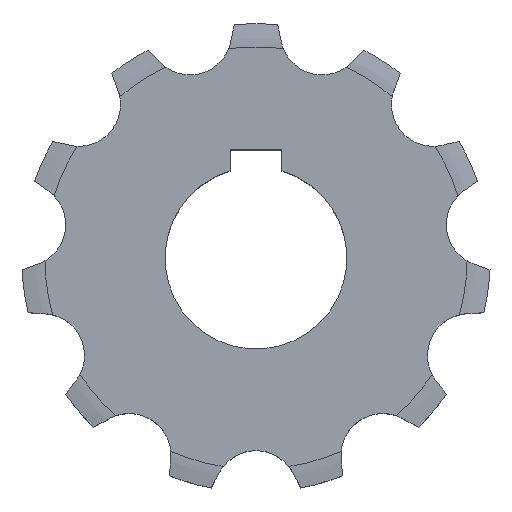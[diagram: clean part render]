
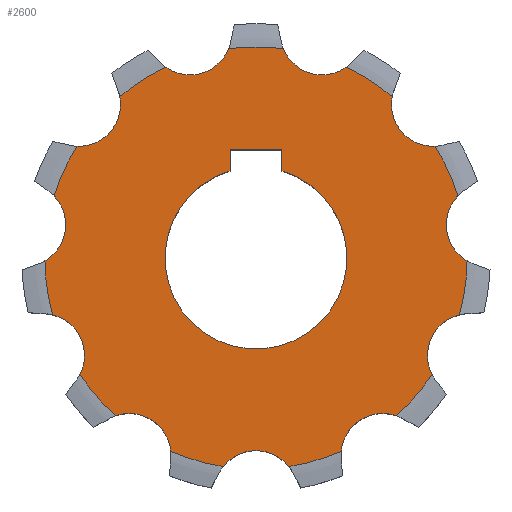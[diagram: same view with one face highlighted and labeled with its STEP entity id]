
A CAD part, top view. The second image highlights one B-rep face of the part: STEP entity #2600.
In plain terms, the highlighted planar face has unit normal (0, 0, 1).
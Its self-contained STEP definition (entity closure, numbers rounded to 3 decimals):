
#33=CARTESIAN_POINT('',(12.7,43.252,8.1));
#34=DIRECTION('',(0.,0.,1.));
#35=DIRECTION('',(-0.928,-0.372,0.));
#36=AXIS2_PLACEMENT_3D('',#33,#34,#35);
#42=CARTESIAN_POINT('',(0.,0.,8.1));
#43=DIRECTION('',(0.,0.,-1.));
#44=DIRECTION('',(0.427,0.904,0.));
#45=AXIS2_PLACEMENT_3D('',#42,#43,#44);
#50=CARTESIAN_POINT('',(34.068,29.52,8.1));
#51=DIRECTION('',(0.,0.,1.));
#52=DIRECTION('',(-0.982,0.189,0.));
#53=AXIS2_PLACEMENT_3D('',#50,#51,#52);
#58=CARTESIAN_POINT('',(0.,0.,8.1));
#59=DIRECTION('',(0.,0.,-1.));
#60=DIRECTION('',(0.848,0.53,0.));
#61=AXIS2_PLACEMENT_3D('',#58,#59,#60);
#66=CARTESIAN_POINT('',(44.619,6.415,8.1));
#67=DIRECTION('',(0.,0.,1.));
#68=DIRECTION('',(-0.724,0.69,0.));
#69=AXIS2_PLACEMENT_3D('',#66,#67,#68);
#74=CARTESIAN_POINT('',(0.,0.,8.1));
#75=DIRECTION('',(0.,0.,-1.));
#76=DIRECTION('',(1.,-0.013,0.));
#77=AXIS2_PLACEMENT_3D('',#74,#75,#76);
#82=CARTESIAN_POINT('',(41.005,-18.726,8.1));
#83=DIRECTION('',(0.,0.,1.));
#84=DIRECTION('',(-0.236,0.972,0.));
#85=AXIS2_PLACEMENT_3D('',#82,#83,#84);
#90=CARTESIAN_POINT('',(0.,0.,8.1));
#91=DIRECTION('',(0.,0.,-1.));
#92=DIRECTION('',(0.834,-0.552,0.));
#93=AXIS2_PLACEMENT_3D('',#90,#91,#92);
#98=CARTESIAN_POINT('',(24.371,-37.922,8.1));
#99=DIRECTION('',(0.,0.,1.));
#100=DIRECTION('',(0.327,0.945,0.));
#101=AXIS2_PLACEMENT_3D('',#98,#99,#100);
#106=CARTESIAN_POINT('',(0.,0.,8.1));
#107=DIRECTION('',(0.,0.,-1.));
#108=DIRECTION('',(0.404,-0.915,0.));
#109=AXIS2_PLACEMENT_3D('',#106,#107,#108);
#114=CARTESIAN_POINT('',(0.,-45.078,8.1));
#115=DIRECTION('',(0.,0.,1.));
#116=DIRECTION('',(0.786,0.618,0.));
#117=AXIS2_PLACEMENT_3D('',#114,#115,#116);
#122=CARTESIAN_POINT('',(0.,0.,8.1));
#123=DIRECTION('',(0.,0.,-1.));
#124=DIRECTION('',(-0.155,-0.988,0.));
#125=AXIS2_PLACEMENT_3D('',#122,#123,#124);
#130=CARTESIAN_POINT('',(-24.371,-37.922,8.1));
#131=DIRECTION('',(0.,0.,1.));
#132=DIRECTION('',(0.995,0.095,0.));
#133=AXIS2_PLACEMENT_3D('',#130,#131,#132);
#138=CARTESIAN_POINT('',(0.,0.,8.1));
#139=DIRECTION('',(0.,0.,-1.));
#140=DIRECTION('',(-0.665,-0.747,0.));
#141=AXIS2_PLACEMENT_3D('',#138,#139,#140);
#146=CARTESIAN_POINT('',(-41.005,-18.726,8.1));
#147=DIRECTION('',(0.,0.,1.));
#148=DIRECTION('',(0.889,-0.458,0.));
#149=AXIS2_PLACEMENT_3D('',#146,#147,#148);
#154=CARTESIAN_POINT('',(0.,0.,8.1));
#155=DIRECTION('',(0.,0.,-1.));
#156=DIRECTION('',(-0.963,-0.269,0.));
#157=AXIS2_PLACEMENT_3D('',#154,#155,#156);
#162=CARTESIAN_POINT('',(-44.619,6.415,8.1));
#163=DIRECTION('',(0.,0.,1.));
#164=DIRECTION('',(0.5,-0.866,0.));
#165=AXIS2_PLACEMENT_3D('',#162,#163,#164);
#170=CARTESIAN_POINT('',(0.,0.,8.1));
#171=DIRECTION('',(0.,0.,-1.));
#172=DIRECTION('',(-0.956,0.294,0.));
#173=AXIS2_PLACEMENT_3D('',#170,#171,#172);
#178=CARTESIAN_POINT('',(-34.068,29.52,8.1));
#179=DIRECTION('',(0.,0.,1.));
#180=DIRECTION('',(-0.048,-0.999,0.));
#181=AXIS2_PLACEMENT_3D('',#178,#179,#180);
#186=CARTESIAN_POINT('',(0.,0.,8.1));
#187=DIRECTION('',(0.,0.,-1.));
#188=DIRECTION('',(-0.645,0.764,0.));
#189=AXIS2_PLACEMENT_3D('',#186,#187,#188);
#194=CARTESIAN_POINT('',(-12.7,43.252,8.1));
#195=DIRECTION('',(0.,0.,1.));
#196=DIRECTION('',(-0.58,-0.815,0.));
#197=AXIS2_PLACEMENT_3D('',#194,#195,#196);
#202=DIRECTION('',(0.,1.,0.));
#203=VECTOR('',#202,4.029);
#204=CARTESIAN_POINT('',(5.,16.771,8.1));
#205=LINE('',#204,#203);
#209=DIRECTION('',(-1.,0.,0.));
#210=VECTOR('',#209,10.);
#211=CARTESIAN_POINT('',(5.,20.8,8.1));
#212=LINE('',#211,#210);
#216=DIRECTION('',(0.,-1.,0.));
#217=VECTOR('',#216,4.029);
#218=CARTESIAN_POINT('',(-5.,20.8,8.1));
#219=LINE('',#218,#217);
#255=CARTESIAN_POINT('',(0.,0.,8.1));
#256=DIRECTION('',(0.,0.,1.));
#257=DIRECTION('',(0.129,0.992,0.));
#258=AXIS2_PLACEMENT_3D('',#255,#256,#257);
#1240=CARTESIAN_POINT('',(0.,0.,8.1));
#1241=DIRECTION('',(0.,0.,-1.));
#1242=DIRECTION('',(0.286,0.958,0.));
#1243=AXIS2_PLACEMENT_3D('',#1240,#1241,#1242);
#1434=CARTESIAN_POINT('',(5.255,40.273,8.1));
#2261=CARTESIAN_POINT('',(17.352,36.72,8.1));
#2262=CARTESIAN_POINT('',(26.194,31.038,8.1));
#2263=VERTEX_POINT('',#2261);
#2264=VERTEX_POINT('',#2262);
#2265=CARTESIAN_POINT('',(34.45,21.51,8.1));
#2266=CARTESIAN_POINT('',(38.816,11.95,8.1));
#2267=VERTEX_POINT('',#2265);
#2268=VERTEX_POINT('',#2266);
#2269=CARTESIAN_POINT('',(40.61,-0.53,8.1));
#2270=CARTESIAN_POINT('',(39.115,-10.933,8.1));
#2271=VERTEX_POINT('',#2269);
#2272=VERTEX_POINT('',#2270);
#2273=CARTESIAN_POINT('',(-6.304,-40.122,8.1));
#2274=CARTESIAN_POINT('',(-16.388,-37.161,8.1));
#2275=VERTEX_POINT('',#2273);
#2276=VERTEX_POINT('',#2274);
#2277=CARTESIAN_POINT('',(-26.995,-30.344,8.1));
#2278=CARTESIAN_POINT('',(-33.877,-22.402,8.1));
#2279=VERTEX_POINT('',#2277);
#2280=VERTEX_POINT('',#2278);
#2281=CARTESIAN_POINT('',(-39.115,-10.933,8.1));
#2282=CARTESIAN_POINT('',(-40.61,-0.53,8.1));
#2283=VERTEX_POINT('',#2281);
#2284=VERTEX_POINT('',#2282);
#2285=CARTESIAN_POINT('',(-38.816,11.95,8.1));
#2286=CARTESIAN_POINT('',(-34.45,21.51,8.1));
#2287=VERTEX_POINT('',#2285);
#2288=VERTEX_POINT('',#2286);
#2318=VERTEX_POINT('',#1434);
#2341=CARTESIAN_POINT('',(33.877,-22.402,8.1));
#2342=VERTEX_POINT('',#2341);
#2345=CARTESIAN_POINT('',(26.995,-30.344,8.1));
#2346=CARTESIAN_POINT('',(16.388,-37.161,8.1));
#2347=VERTEX_POINT('',#2345);
#2348=VERTEX_POINT('',#2346);
#2353=CARTESIAN_POINT('',(6.304,-40.122,8.1));
#2354=VERTEX_POINT('',#2353);
#2377=CARTESIAN_POINT('',(-26.194,31.038,8.1));
#2378=CARTESIAN_POINT('',(-17.352,36.72,8.1));
#2379=VERTEX_POINT('',#2377);
#2380=VERTEX_POINT('',#2378);
#2485=CARTESIAN_POINT('',(-5.255,40.273,8.1));
#2486=VERTEX_POINT('',#2485);
#2497=CARTESIAN_POINT('',(5.,16.771,8.1));
#2498=VERTEX_POINT('',#2497);
#2499=CARTESIAN_POINT('',(-5.,16.771,8.1));
#2500=VERTEX_POINT('',#2499);
#2501=CARTESIAN_POINT('',(5.,20.8,8.1));
#2502=VERTEX_POINT('',#2501);
#2503=CARTESIAN_POINT('',(-5.,20.8,8.1));
#2504=VERTEX_POINT('',#2503);
#2539=CARTESIAN_POINT('',(0.,0.,8.1));
#2540=DIRECTION('',(0.,0.,1.));
#2541=DIRECTION('',(1.,0.,0.));
#2542=AXIS2_PLACEMENT_3D('',#2539,#2540,#2541);
#2543=PLANE('',#2542);
#2545=ORIENTED_EDGE('',*,*,#2544,.F.);
#2547=ORIENTED_EDGE('',*,*,#2546,.T.);
#2549=ORIENTED_EDGE('',*,*,#2548,.T.);
#2551=ORIENTED_EDGE('',*,*,#2550,.T.);
#2553=ORIENTED_EDGE('',*,*,#2552,.T.);
#2555=ORIENTED_EDGE('',*,*,#2554,.T.);
#2557=ORIENTED_EDGE('',*,*,#2556,.T.);
#2559=ORIENTED_EDGE('',*,*,#2558,.T.);
#2561=ORIENTED_EDGE('',*,*,#2560,.T.);
#2563=ORIENTED_EDGE('',*,*,#2562,.T.);
#2565=ORIENTED_EDGE('',*,*,#2564,.T.);
#2567=ORIENTED_EDGE('',*,*,#2566,.T.);
#2569=ORIENTED_EDGE('',*,*,#2568,.T.);
#2571=ORIENTED_EDGE('',*,*,#2570,.T.);
#2573=ORIENTED_EDGE('',*,*,#2572,.T.);
#2575=ORIENTED_EDGE('',*,*,#2574,.T.);
#2577=ORIENTED_EDGE('',*,*,#2576,.T.);
#2579=ORIENTED_EDGE('',*,*,#2578,.T.);
#2581=ORIENTED_EDGE('',*,*,#2580,.T.);
#2583=ORIENTED_EDGE('',*,*,#2582,.T.);
#2585=ORIENTED_EDGE('',*,*,#2584,.T.);
#2587=ORIENTED_EDGE('',*,*,#2586,.T.);
#2588=EDGE_LOOP('',(#2545,#2547,#2549,#2551,#2553,#2555,#2557,#2559,#2561,#2563,
#2565,#2567,#2569,#2571,#2573,#2575,#2577,#2579,#2581,#2583,#2585,#2587));
#2589=FACE_OUTER_BOUND('',#2588,.F.);
#2591=ORIENTED_EDGE('',*,*,#2590,.T.);
#2593=ORIENTED_EDGE('',*,*,#2592,.T.);
#2595=ORIENTED_EDGE('',*,*,#2594,.T.);
#2597=ORIENTED_EDGE('',*,*,#2596,.F.);
#2598=EDGE_LOOP('',(#2591,#2593,#2595,#2597));
#2599=FACE_BOUND('',#2598,.F.);
#2600=ADVANCED_FACE('',(#2589,#2599),#2543,.T.);
#37=CIRCLE('',#36,8.019);
#46=CIRCLE('',#45,40.614);
#54=CIRCLE('',#53,8.019);
#62=CIRCLE('',#61,40.614);
#70=CIRCLE('',#69,8.019);
#78=CIRCLE('',#77,40.614);
#86=CIRCLE('',#85,8.019);
#94=CIRCLE('',#93,40.614);
#102=CIRCLE('',#101,8.019);
#110=CIRCLE('',#109,40.614);
#118=CIRCLE('',#117,8.019);
#126=CIRCLE('',#125,40.614);
#134=CIRCLE('',#133,8.019);
#142=CIRCLE('',#141,40.614);
#150=CIRCLE('',#149,8.019);
#158=CIRCLE('',#157,40.614);
#166=CIRCLE('',#165,8.019);
#174=CIRCLE('',#173,40.614);
#182=CIRCLE('',#181,8.019);
#190=CIRCLE('',#189,40.614);
#198=CIRCLE('',#197,8.019);
#259=CIRCLE('',#258,40.614);
#1244=CIRCLE('',#1243,17.5);
#2544=EDGE_CURVE('',#2318,#2486,#259,.T.);
#2546=EDGE_CURVE('',#2318,#2263,#37,.T.);
#2548=EDGE_CURVE('',#2263,#2264,#46,.T.);
#2550=EDGE_CURVE('',#2264,#2267,#54,.T.);
#2552=EDGE_CURVE('',#2267,#2268,#62,.T.);
#2554=EDGE_CURVE('',#2268,#2271,#70,.T.);
#2556=EDGE_CURVE('',#2271,#2272,#78,.T.);
#2558=EDGE_CURVE('',#2272,#2342,#86,.T.);
#2560=EDGE_CURVE('',#2342,#2347,#94,.T.);
#2562=EDGE_CURVE('',#2347,#2348,#102,.T.);
#2564=EDGE_CURVE('',#2348,#2354,#110,.T.);
#2566=EDGE_CURVE('',#2354,#2275,#118,.T.);
#2568=EDGE_CURVE('',#2275,#2276,#126,.T.);
#2570=EDGE_CURVE('',#2276,#2279,#134,.T.);
#2572=EDGE_CURVE('',#2279,#2280,#142,.T.);
#2574=EDGE_CURVE('',#2280,#2283,#150,.T.);
#2576=EDGE_CURVE('',#2283,#2284,#158,.T.);
#2578=EDGE_CURVE('',#2284,#2287,#166,.T.);
#2580=EDGE_CURVE('',#2287,#2288,#174,.T.);
#2582=EDGE_CURVE('',#2288,#2379,#182,.T.);
#2584=EDGE_CURVE('',#2379,#2380,#190,.T.);
#2586=EDGE_CURVE('',#2380,#2486,#198,.T.);
#2590=EDGE_CURVE('',#2498,#2502,#205,.T.);
#2592=EDGE_CURVE('',#2502,#2504,#212,.T.);
#2594=EDGE_CURVE('',#2504,#2500,#219,.T.);
#2596=EDGE_CURVE('',#2498,#2500,#1244,.T.);
